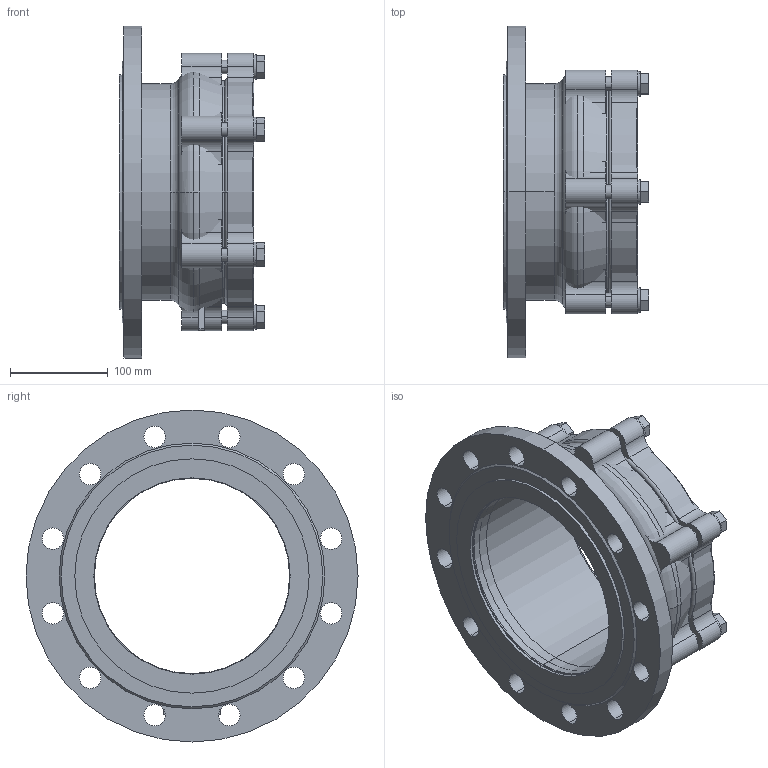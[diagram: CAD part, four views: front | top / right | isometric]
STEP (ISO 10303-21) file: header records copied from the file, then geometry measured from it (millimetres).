
FILE_DESCRIPTION(('STEP AP214'),'1');
FILE_NAME('S:/EK/USER/CAT6/3DHomepage_27-04-2012/VDI-Rohrsysteme_und_Stahlrohre/0400_(7200)/0400_PN16_DN200_200.STP','2013-01-28T10:21:26',(' '),(' '),'Spatial InterOp 3D',' ',' ');
FILE_SCHEMA(('automotive_design'));
Length unit declared in the file: millimetre
Products named in the file (37): 3D-Objekt
Bounding box: 149.3 x 340 x 340 mm (x, y, z)
Volume: 2906687.7 mm3; surface area: 726075.3 mm2
Topology: 37 solids, 37 shells, 280 faces, 614 edges, 408 vertices
Faces by surface type: plane 137, cylinder 125, torus 12, cone 6
Entity records: 10965 total; most frequent: DIRECTION 1542, CARTESIAN_POINT 1339, ORIENTED_EDGE 1228, EDGE_CURVE 614, AXIS2_PLACEMENT_3D 611, VERTEX_POINT 408, LINE 320, VECTOR 320
